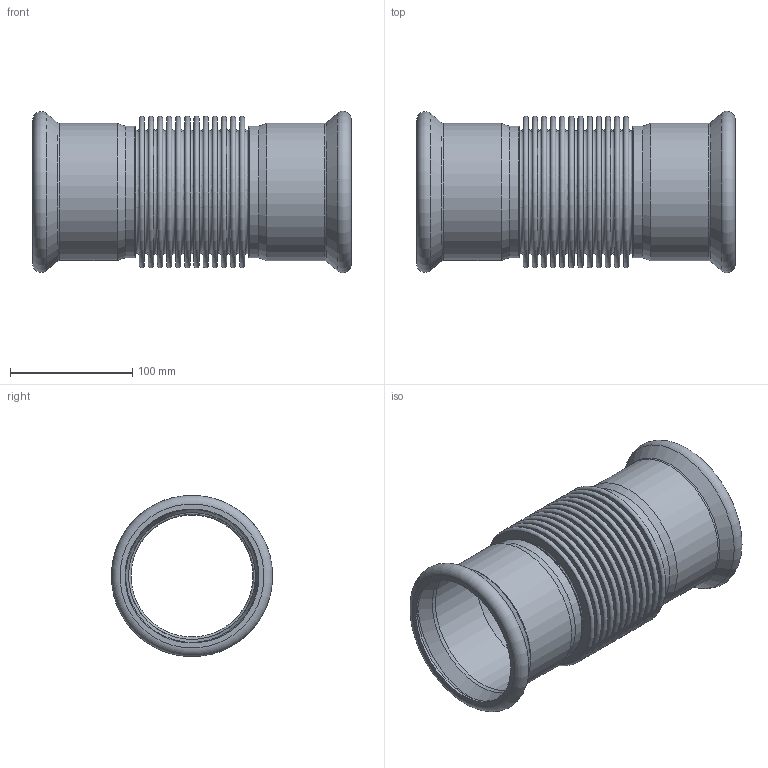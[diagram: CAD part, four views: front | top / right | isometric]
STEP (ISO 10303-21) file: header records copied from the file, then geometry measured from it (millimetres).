
FILE_DESCRIPTION((''),'2;1');
FILE_NAME('G:\Nirosan-Schmiedefeld\Technics\CAD\001 Serie 9.000\108\69872L108H(0).stp','2018-09-11T15:34:52',('herberg'),(''),'Autodesk Inventor 2009','Autodesk Inventor 2009','');
FILE_SCHEMA(('AUTOMOTIVE_DESIGN { 1 0 10303 214 1 1 1 1 }'));
Length unit declared in the file: millimetre
Products named in the file (3): 69872L108H(0); 69488L108P(0); 69HM108P(0)
Assembly tree (3 placements, depth 2):
  69872L108H(0)
    69488L108P(0)
    69HM108P(0)  x2
Bounding box: 261 x 132.19 x 132.19 mm (x, y, z)
Volume: 199074.4 mm3; surface area: 377834.2 mm2
Topology: 3 solids, 3 shells, 136 faces, 216 edges, 138 vertices
Faces by surface type: plane 58, bspline 30, torus 28, cylinder 12, cone 8
Full cylindrical faces by diameter (mm): 104 x2, 108 x4, 108.7 x2, 110 x2, 112.7 x2
Entity records: 4558 total; most frequent: CARTESIAN_POINT 2534, DIRECTION 436, ORIENTED_EDGE 240, EDGE_LOOP 240, AXIS2_PLACEMENT_3D 218, VERTEX_POINT 120, CIRCLE 120, EDGE_CURVE 120
